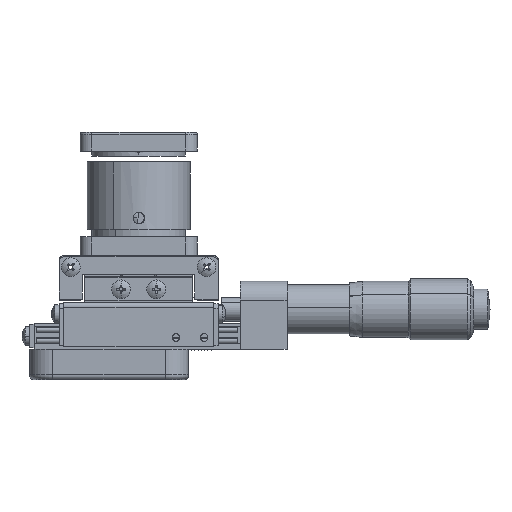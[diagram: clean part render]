
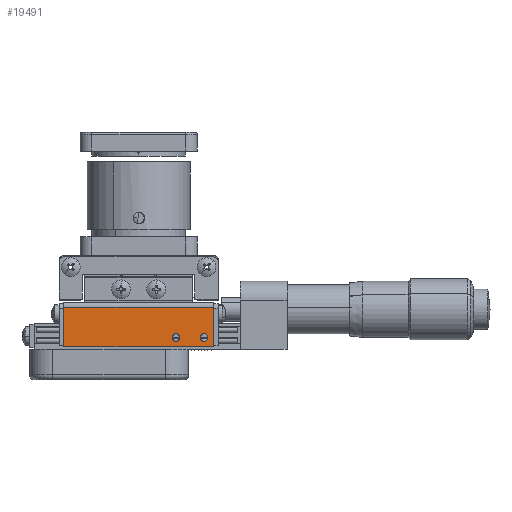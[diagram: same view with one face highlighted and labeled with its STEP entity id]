
A CAD part, left-side view. The second image highlights one B-rep face of the part: STEP entity #19491.
In plain terms, the highlighted planar face has unit normal (-1, 0, 0).
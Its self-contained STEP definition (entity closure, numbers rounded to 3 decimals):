
#236 = DIRECTION ( 'NONE',  ( -1., 0., 0. ) ) ;
#1097 = VERTEX_POINT ( 'NONE', #13243 ) ;
#2250 = ORIENTED_EDGE ( 'NONE', *, *, #5126, .T. ) ;
#2355 = DIRECTION ( 'NONE',  ( -1., 0., 0. ) ) ;
#2646 = EDGE_CURVE ( 'NONE', #34498, #8686, #12404, .T. ) ;
#3473 = CARTESIAN_POINT ( 'NONE',  ( 6.129, -11.049, 15.5 ) ) ;
#3805 = EDGE_LOOP ( 'NONE', ( #27454, #18070 ) ) ;
#4301 = LINE ( 'NONE', #41208, #38289 ) ;
#4952 = DIRECTION ( 'NONE',  ( 0., 0., -1. ) ) ;
#5126 = EDGE_CURVE ( 'NONE', #34498, #30320, #26731, .T. ) ;
#5896 = DIRECTION ( 'NONE',  ( 1., 0., 0. ) ) ;
#6975 = CARTESIAN_POINT ( 'NONE',  ( 6.129, -34.249, 9. ) ) ;
#7175 = VECTOR ( 'NONE', #16711, 1000. ) ;
#7398 = AXIS2_PLACEMENT_3D ( 'NONE', #21315, #34392, #21161 ) ;
#7402 = LINE ( 'NONE', #41100, #14620 ) ;
#8066 = EDGE_CURVE ( 'NONE', #37661, #8686, #4301, .T. ) ;
#8686 = VERTEX_POINT ( 'NONE', #41663 ) ;
#8801 = EDGE_CURVE ( 'NONE', #30320, #37661, #7402, .T. ) ;
#8957 = DIRECTION ( 'NONE',  ( 0., -1., 0. ) ) ;
#9991 = CARTESIAN_POINT ( 'NONE',  ( 6.129, -35.049, 9. ) ) ;
#12404 = LINE ( 'NONE', #36780, #38260 ) ;
#13243 = CARTESIAN_POINT ( 'NONE',  ( 6.129, -40.249, 9. ) ) ;
#13261 = DIRECTION ( 'NONE',  ( 0., 0., -1. ) ) ;
#14620 = VECTOR ( 'NONE', #4952, 1000. ) ;
#15310 = CARTESIAN_POINT ( 'NONE',  ( 6.129, -41.049, 9. ) ) ;
#15598 = ORIENTED_EDGE ( 'NONE', *, *, #37060, .F. ) ;
#15621 = CIRCLE ( 'NONE', #28279, 0.8 ) ;
#15977 = FACE_BOUND ( 'NONE', #3805, .T. ) ;
#16711 = DIRECTION ( 'NONE',  ( 0., 1., 0. ) ) ;
#16848 = CARTESIAN_POINT ( 'NONE',  ( 6.129, -11.049, 15.5 ) ) ;
#18070 = ORIENTED_EDGE ( 'NONE', *, *, #41662, .F. ) ;
#18789 = CARTESIAN_POINT ( 'NONE',  ( 6.129, -41.049, 9. ) ) ;
#18921 = DIRECTION ( 'NONE',  ( -1., 0., 0. ) ) ;
#19152 = PLANE ( 'NONE',  #39777 ) ;
#19491 = ADVANCED_FACE ( 'NONE', ( #15977, #37116, #27280 ), #19152, .F. ) ;
#21161 = DIRECTION ( 'NONE',  ( 0., -1., 0. ) ) ;
#21315 = CARTESIAN_POINT ( 'NONE',  ( 6.129, -35.049, 9. ) ) ;
#25668 = DIRECTION ( 'NONE',  ( 0., -1., 0. ) ) ;
#26731 = LINE ( 'NONE', #16848, #7175 ) ;
#27168 = EDGE_LOOP ( 'NONE', ( #28119, #15598 ) ) ;
#27280 = FACE_OUTER_BOUND ( 'NONE', #35291, .T. ) ;
#27454 = ORIENTED_EDGE ( 'NONE', *, *, #41672, .F. ) ;
#27675 = CARTESIAN_POINT ( 'NONE',  ( 6.129, -41.849, 9. ) ) ;
#28119 = ORIENTED_EDGE ( 'NONE', *, *, #29482, .F. ) ;
#28279 = AXIS2_PLACEMENT_3D ( 'NONE', #15310, #18921, #25668 ) ;
#28305 = CIRCLE ( 'NONE', #7398, 0.8 ) ;
#28896 = DIRECTION ( 'NONE',  ( 0., 1., 0. ) ) ;
#29482 = EDGE_CURVE ( 'NONE', #40132, #35481, #41113, .T. ) ;
#30320 = VERTEX_POINT ( 'NONE', #3473 ) ;
#31092 = ORIENTED_EDGE ( 'NONE', *, *, #8801, .T. ) ;
#32906 = DIRECTION ( 'NONE',  ( 0., -1., 0. ) ) ;
#34191 = CIRCLE ( 'NONE', #35754, 0.8 ) ;
#34196 = ORIENTED_EDGE ( 'NONE', *, *, #8066, .T. ) ;
#34392 = DIRECTION ( 'NONE',  ( -1., 0., 0. ) ) ;
#34443 = DIRECTION ( 'NONE',  ( 0., -1., 0. ) ) ;
#34498 = VERTEX_POINT ( 'NONE', #36610 ) ;
#34511 = AXIS2_PLACEMENT_3D ( 'NONE', #9991, #236, #32906 ) ;
#35291 = EDGE_LOOP ( 'NONE', ( #37493, #2250, #31092, #34196 ) ) ;
#35481 = VERTEX_POINT ( 'NONE', #6975 ) ;
#35754 = AXIS2_PLACEMENT_3D ( 'NONE', #18789, #2355, #8957 ) ;
#36610 = CARTESIAN_POINT ( 'NONE',  ( 6.129, -43.049, 15.5 ) ) ;
#36780 = CARTESIAN_POINT ( 'NONE',  ( 6.129, -43.049, 16.5 ) ) ;
#37060 = EDGE_CURVE ( 'NONE', #35481, #40132, #28305, .T. ) ;
#37097 = CARTESIAN_POINT ( 'NONE',  ( 6.129, -11.049, 7. ) ) ;
#37116 = FACE_BOUND ( 'NONE', #27168, .T. ) ;
#37369 = CARTESIAN_POINT ( 'NONE',  ( 6.129, -35.849, 9. ) ) ;
#37493 = ORIENTED_EDGE ( 'NONE', *, *, #2646, .F. ) ;
#37661 = VERTEX_POINT ( 'NONE', #37097 ) ;
#37867 = VERTEX_POINT ( 'NONE', #27675 ) ;
#38260 = VECTOR ( 'NONE', #13261, 1000. ) ;
#38289 = VECTOR ( 'NONE', #34443, 1000. ) ;
#39777 = AXIS2_PLACEMENT_3D ( 'NONE', #42186, #5896, #28896 ) ;
#40132 = VERTEX_POINT ( 'NONE', #37369 ) ;
#41100 = CARTESIAN_POINT ( 'NONE',  ( 6.129, -11.049, 16.5 ) ) ;
#41113 = CIRCLE ( 'NONE', #34511, 0.8 ) ;
#41208 = CARTESIAN_POINT ( 'NONE',  ( 6.129, -11.049, 7. ) ) ;
#41662 = EDGE_CURVE ( 'NONE', #1097, #37867, #34191, .T. ) ;
#41663 = CARTESIAN_POINT ( 'NONE',  ( 6.129, -43.049, 7. ) ) ;
#41672 = EDGE_CURVE ( 'NONE', #37867, #1097, #15621, .T. ) ;
#42186 = CARTESIAN_POINT ( 'NONE',  ( 6.129, -11.049, 16.5 ) ) ;
